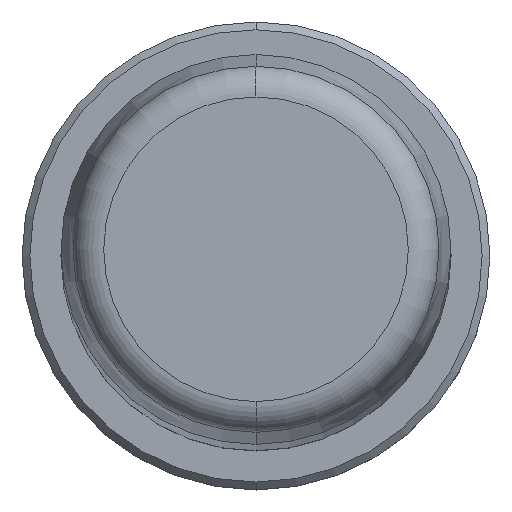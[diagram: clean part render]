
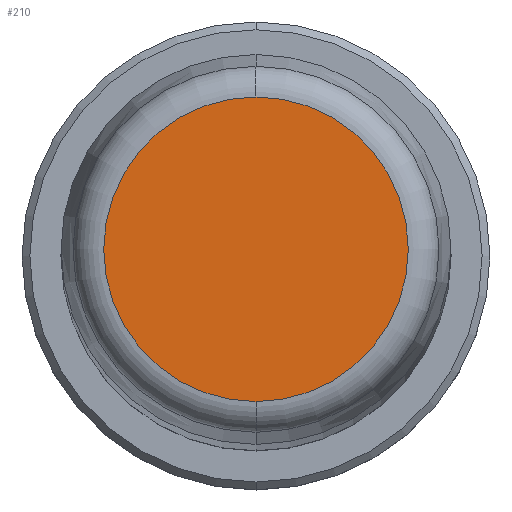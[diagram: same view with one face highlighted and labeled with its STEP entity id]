
A CAD part, top view. The second image highlights one B-rep face of the part: STEP entity #210.
In plain terms, the highlighted planar face has unit normal (0, 0, 1).
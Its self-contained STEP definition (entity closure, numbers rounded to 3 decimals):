
#1=CARTESIAN_POINT('',(0.,0.,250.));
#2=DIRECTION('',(0.,0.,-1.));
#3=DIRECTION('',(0.,-1.,0.));
#4=AXIS2_PLACEMENT_3D('',#1,#2,#3);
#6=CARTESIAN_POINT('',(0.,0.,250.));
#7=DIRECTION('',(0.,0.,-1.));
#8=DIRECTION('',(0.,1.,0.));
#9=AXIS2_PLACEMENT_3D('',#6,#7,#8);
#183=CARTESIAN_POINT('',(0.,-9.764,250.));
#184=CARTESIAN_POINT('',(0.,9.764,250.));
#185=VERTEX_POINT('',#183);
#186=VERTEX_POINT('',#184);
#199=CARTESIAN_POINT('',(0.,0.,250.));
#200=DIRECTION('',(0.,0.,1.));
#201=DIRECTION('',(0.,-1.,0.));
#202=AXIS2_PLACEMENT_3D('',#199,#200,#201);
#203=PLANE('',#202);
#205=ORIENTED_EDGE('',*,*,#204,.T.);
#207=ORIENTED_EDGE('',*,*,#206,.T.);
#208=EDGE_LOOP('',(#205,#207));
#209=FACE_OUTER_BOUND('',#208,.F.);
#210=ADVANCED_FACE('',(#209),#203,.T.);
#5=CIRCLE('',#4,9.764);
#10=CIRCLE('',#9,9.764);
#204=EDGE_CURVE('',#185,#186,#5,.T.);
#206=EDGE_CURVE('',#186,#185,#10,.T.);
